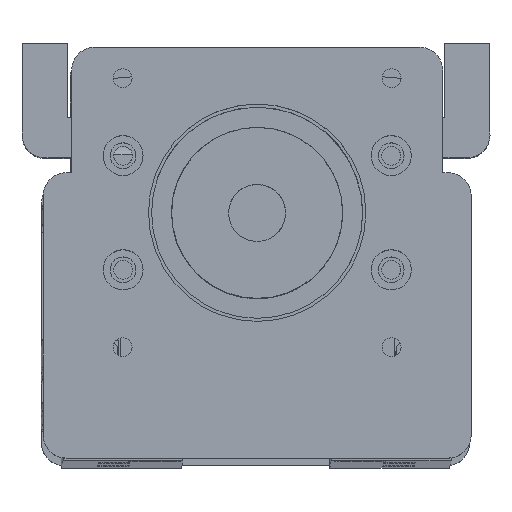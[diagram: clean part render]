
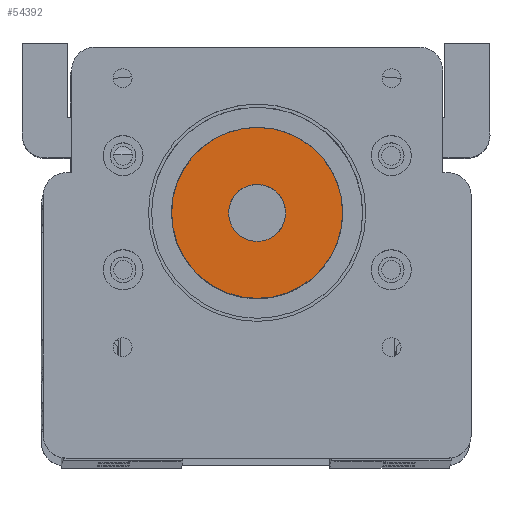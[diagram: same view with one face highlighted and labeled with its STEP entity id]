
A CAD part, top view. The second image highlights one B-rep face of the part: STEP entity #54392.
In plain terms, the highlighted planar face has unit normal (0, 0, 1).
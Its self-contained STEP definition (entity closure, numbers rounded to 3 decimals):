
#1557 = DIRECTION ( 'NONE',  ( 0., 0., 1. ) ) ;
#1889 = VERTEX_POINT ( 'NONE', #28493 ) ;
#2405 = CARTESIAN_POINT ( 'NONE',  ( -6.16, 0., 40.753 ) ) ;
#2558 = CARTESIAN_POINT ( 'NONE',  ( -21.138, 0., 40.753 ) ) ;
#2834 = VERTEX_POINT ( 'NONE', #42666 ) ;
#3625 = CARTESIAN_POINT ( 'NONE',  ( -1.157, 0., 40.753 ) ) ;
#4682 = VERTEX_POINT ( 'NONE', #3625 ) ;
#4779 = CARTESIAN_POINT ( 'NONE',  ( -6.16, 0., 40.753 ) ) ;
#5032 = EDGE_CURVE ( 'NONE', #1889, #4682, #36786, .T. ) ;
#6698 = DIRECTION ( 'NONE',  ( 1., 0., 0. ) ) ;
#6956 = PLANE ( 'NONE',  #34084 ) ;
#7450 = AXIS2_PLACEMENT_3D ( 'NONE', #27015, #1557, #31327 ) ;
#9063 = DIRECTION ( 'NONE',  ( 1., 0., 0. ) ) ;
#9518 = AXIS2_PLACEMENT_3D ( 'NONE', #2405, #32156, #6698 ) ;
#11457 = DIRECTION ( 'NONE',  ( 0., 0., 1. ) ) ;
#11742 = CIRCLE ( 'NONE', #52003, 14.978 ) ;
#14022 = ORIENTED_EDGE ( 'NONE', *, *, #43868, .T. ) ;
#16069 = AXIS2_PLACEMENT_3D ( 'NONE', #4779, #34548, #9063 ) ;
#16751 = ORIENTED_EDGE ( 'NONE', *, *, #17732, .T. ) ;
#17531 = DIRECTION ( 'NONE',  ( 0., 0., 1. ) ) ;
#17732 = EDGE_CURVE ( 'NONE', #2834, #21775, #11742, .T. ) ;
#21775 = VERTEX_POINT ( 'NONE', #2558 ) ;
#27015 = CARTESIAN_POINT ( 'NONE',  ( -6.16, 0., 40.753 ) ) ;
#27579 = EDGE_CURVE ( 'NONE', #4682, #1889, #42003, .T. ) ;
#28493 = CARTESIAN_POINT ( 'NONE',  ( -11.163, 0., 40.753 ) ) ;
#29205 = FACE_OUTER_BOUND ( 'NONE', #53122, .T. ) ;
#31327 = DIRECTION ( 'NONE',  ( 1., 0., 0. ) ) ;
#32156 = DIRECTION ( 'NONE',  ( 0., 0., 1. ) ) ;
#32626 = CARTESIAN_POINT ( 'NONE',  ( -6.16, 0., 40.753 ) ) ;
#33087 = ORIENTED_EDGE ( 'NONE', *, *, #27579, .F. ) ;
#33329 = ORIENTED_EDGE ( 'NONE', *, *, #5032, .F. ) ;
#34084 = AXIS2_PLACEMENT_3D ( 'NONE', #32626, #11457, #41150 ) ;
#34548 = DIRECTION ( 'NONE',  ( 0., 0., 1. ) ) ;
#36403 = EDGE_LOOP ( 'NONE', ( #33329, #33087 ) ) ;
#36786 = CIRCLE ( 'NONE', #7450, 5.003 ) ;
#39152 = FACE_BOUND ( 'NONE', #36403, .T. ) ;
#41150 = DIRECTION ( 'NONE',  ( 1., 0., 0. ) ) ;
#42003 = CIRCLE ( 'NONE', #16069, 5.003 ) ;
#42666 = CARTESIAN_POINT ( 'NONE',  ( 8.817, 0., 40.753 ) ) ;
#42978 = CARTESIAN_POINT ( 'NONE',  ( -6.16, 0., 40.753 ) ) ;
#43868 = EDGE_CURVE ( 'NONE', #21775, #2834, #44987, .T. ) ;
#44987 = CIRCLE ( 'NONE', #9518, 14.978 ) ;
#47216 = DIRECTION ( 'NONE',  ( 1., 0., 0. ) ) ;
#52003 = AXIS2_PLACEMENT_3D ( 'NONE', #42978, #17531, #47216 ) ;
#53122 = EDGE_LOOP ( 'NONE', ( #14022, #16751 ) ) ;
#54392 = ADVANCED_FACE ( 'NONE', ( #29205, #39152 ), #6956, .T. ) ;
